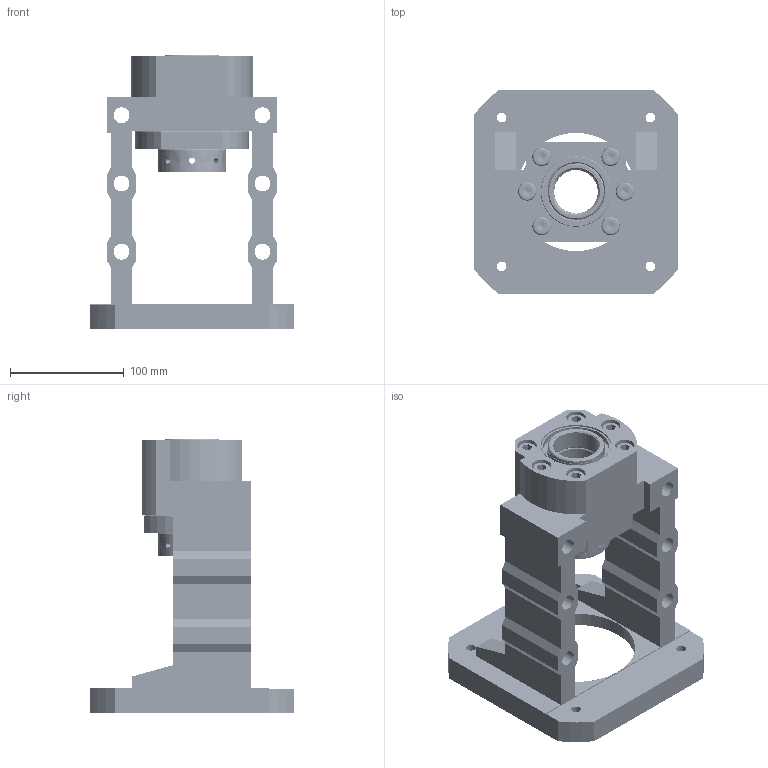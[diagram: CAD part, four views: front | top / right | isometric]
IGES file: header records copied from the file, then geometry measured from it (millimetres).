
Start section: SolidWorks IGES file using analytic representation for surfaces
Bounding box: 180 x 180 x 241 mm (x, y, z)
Surface area: 350984.6 mm2 (no closed solid volume)
Topology: 0 solids, 0 shells, 1071 faces, 18207 edges, 18047 vertices
Faces by surface type: revolution 812, bspline 259
